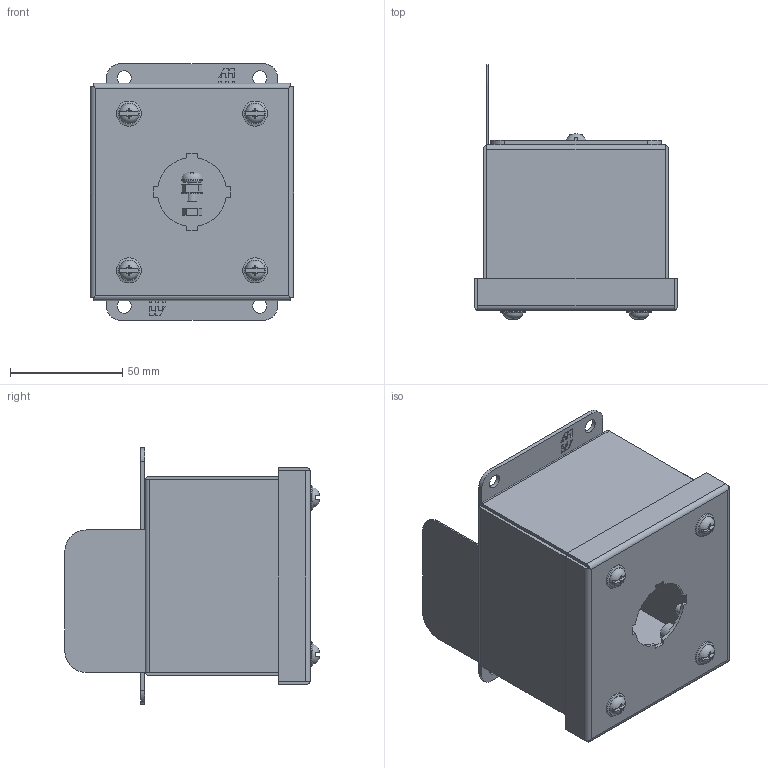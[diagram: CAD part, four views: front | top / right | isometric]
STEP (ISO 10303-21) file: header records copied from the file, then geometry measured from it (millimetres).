
FILE_DESCRIPTION(/* description */ ('Unknown'),/* implementation_level */ '2;1');
FILE_NAME(/* name */ '1435SSA',/* time_stamp */ '2021-01-18T09:17:38-05:00',/* author */ ('Unknown'),/* organization */ ('Unknown'),/* preprocessor_version */ 'ST-DEVELOPER v16.7',/* originating_system */ 'Solid Edge',/* authorisation */ 'Unknown');
FILE_SCHEMA (('AUTOMOTIVE_DESIGN {1 0 10303 214 3 1 1}'));
Length unit declared in the file: millimetre
Products named in the file (20): 1435SSA; AKT90411; WAM87960; SCS190055; RVN01001; COM71378-1; STD26202; COM70614_oa_0; COM52863; COM50805; STD26154; QLB20282; KIT95027; NTS17050; NTS16500; LAB30005; WAF250205; WAL251505; scs18968
Assembly tree (26 placements, depth 3):
  1435SSA
    AKT90411  x4
      WAM87960
      SCS190055
    RVN01001  x4
    COM71378-1
      COM71378-1
      STD26202
      COM70614_oa_0
    COM52863  x2
    COM50805
    STD26154
    QLB20282
    KIT95027
      NTS17050
      NTS16500
      LAB30005
      WAF250205
      WAL251505
      scs18968
Bounding box: 90.47 x 113.21 x 114.3 mm (x, y, z)
Volume: 90664.8 mm3; surface area: 136438.6 mm2
Topology: 25 solids, 26 shells, 820 faces, 2124 edges, 1382 vertices
Faces by surface type: plane 459, cylinder 147, bspline 133, cone 55, torus 26
Full cylindrical faces by diameter (mm): 1.651 x4, 3.759 x4, 3.967 x3, 4.064 x4, 4.699 x1, 4.826 x5, 5.461 x1, 6.071 x4, 6.096 x4, 6.35 x9, 6.426 x4, 8.001 x4, 9.525 x2, 9.779 x1, 10.312 x4, 11.176 x4, 12.7 x1
Entity records: 20858 total; most frequent: CARTESIAN_POINT 6659, ORIENTED_EDGE 3016, DIRECTION 2474, EDGE_CURVE 1508, VERTEX_POINT 993, LINE 882, VECTOR 882, AXIS2_PLACEMENT_3D 796
